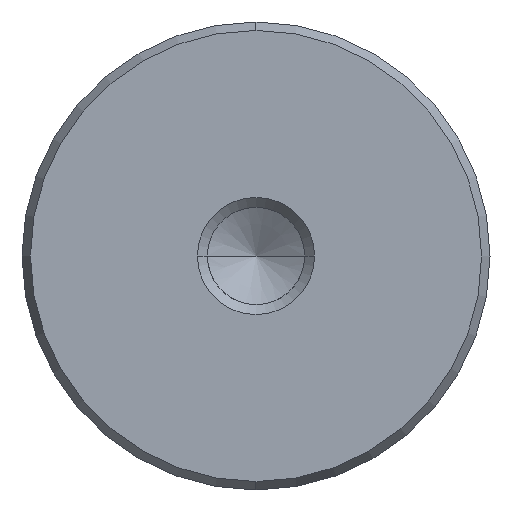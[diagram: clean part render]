
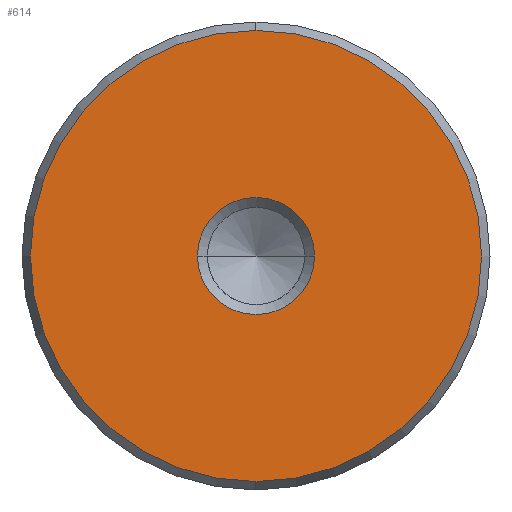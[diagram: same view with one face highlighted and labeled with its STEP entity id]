
A CAD part, left-side view. The second image highlights one B-rep face of the part: STEP entity #614.
In plain terms, the highlighted planar face has unit normal (-1, 0, 0).
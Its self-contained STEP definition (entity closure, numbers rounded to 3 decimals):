
#528=CARTESIAN_POINT('Vertex',(0.,0.,-15.423)) ;
#531=CARTESIAN_POINT('Axis2P3D Location',(0.,0.,0.)) ;
#535=CARTESIAN_POINT('Vertex',(0.,15.423,0.)) ;
#538=CARTESIAN_POINT('Axis2P3D Location',(0.,0.,0.)) ;
#542=CARTESIAN_POINT('Vertex',(0.,0.,15.423)) ;
#564=CARTESIAN_POINT('Axis2P3D Location',(0.,0.,0.)) ;
#568=CARTESIAN_POINT('Vertex',(0.,-15.423,0.)) ;
#571=CARTESIAN_POINT('Axis2P3D Location',(0.,0.,0.)) ;
#585=CARTESIAN_POINT('Axis2P3D Location',(0.,0.,0.)) ;
#596=CARTESIAN_POINT('Axis2P3D Location',(0.,0.,0.)) ;
#600=CARTESIAN_POINT('Vertex',(0.,4.,0.)) ;
#602=CARTESIAN_POINT('Vertex',(0.,-4.,0.)) ;
#605=CARTESIAN_POINT('Axis2P3D Location',(0.,0.,0.)) ;
#532=DIRECTION('Axis2P3D Direction',(1.,0.,-0.)) ;
#539=DIRECTION('Axis2P3D Direction',(1.,0.,-0.)) ;
#565=DIRECTION('Axis2P3D Direction',(1.,0.,-0.)) ;
#572=DIRECTION('Axis2P3D Direction',(1.,0.,-0.)) ;
#586=DIRECTION('Axis2P3D Direction',(1.,0.,-0.)) ;
#587=DIRECTION('Axis2P3D XDirection',(-0.,0.,-1.)) ;
#597=DIRECTION('Axis2P3D Direction',(1.,0.,-0.)) ;
#606=DIRECTION('Axis2P3D Direction',(1.,0.,-0.)) ;
#533=AXIS2_PLACEMENT_3D('Circle Axis2P3D',#531,#532,$) ;
#540=AXIS2_PLACEMENT_3D('Circle Axis2P3D',#538,#539,$) ;
#566=AXIS2_PLACEMENT_3D('Circle Axis2P3D',#564,#565,$) ;
#573=AXIS2_PLACEMENT_3D('Circle Axis2P3D',#571,#572,$) ;
#588=AXIS2_PLACEMENT_3D('Plane Axis2P3D',#585,#586,#587) ;
#598=AXIS2_PLACEMENT_3D('Circle Axis2P3D',#596,#597,$) ;
#607=AXIS2_PLACEMENT_3D('Circle Axis2P3D',#605,#606,$) ;
#591=ORIENTED_EDGE('',*,*,#537,.F.) ;
#592=ORIENTED_EDGE('',*,*,#575,.F.) ;
#593=ORIENTED_EDGE('',*,*,#570,.F.) ;
#594=ORIENTED_EDGE('',*,*,#544,.F.) ;
#611=ORIENTED_EDGE('',*,*,#604,.T.) ;
#612=ORIENTED_EDGE('',*,*,#609,.T.) ;
#613=FACE_BOUND('',#610,.T.) ;
#614=ADVANCED_FACE('720-32x160',(#595,#613),#589,.F.) ;
#534=CIRCLE('generated circle',#533,15.423) ;
#541=CIRCLE('generated circle',#540,15.423) ;
#567=CIRCLE('generated circle',#566,15.423) ;
#574=CIRCLE('generated circle',#573,15.423) ;
#599=CIRCLE('generated circle',#598,4.) ;
#608=CIRCLE('generated circle',#607,4.) ;
#537=EDGE_CURVE('',#529,#536,#534,.T.) ;
#544=EDGE_CURVE('',#536,#543,#541,.T.) ;
#570=EDGE_CURVE('',#543,#569,#567,.T.) ;
#575=EDGE_CURVE('',#569,#529,#574,.T.) ;
#604=EDGE_CURVE('',#601,#603,#599,.T.) ;
#609=EDGE_CURVE('',#603,#601,#608,.T.) ;
#590=EDGE_LOOP('',(#591,#592,#593,#594)) ;
#610=EDGE_LOOP('',(#611,#612)) ;
#595=FACE_OUTER_BOUND('',#590,.T.) ;
#589=PLANE('Plane',#588) ;
#529=VERTEX_POINT('',#528) ;
#536=VERTEX_POINT('',#535) ;
#543=VERTEX_POINT('',#542) ;
#569=VERTEX_POINT('',#568) ;
#601=VERTEX_POINT('',#600) ;
#603=VERTEX_POINT('',#602) ;
